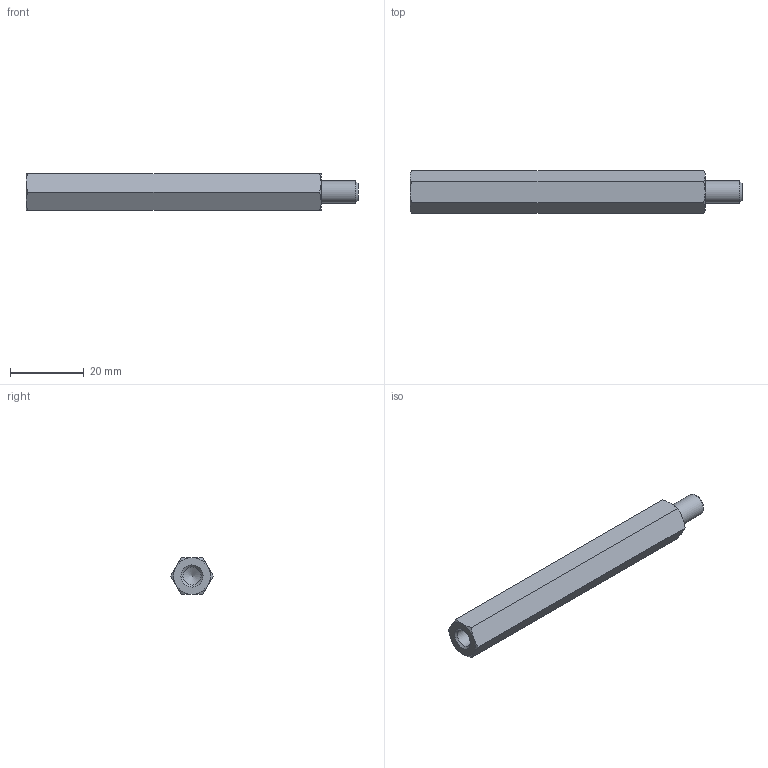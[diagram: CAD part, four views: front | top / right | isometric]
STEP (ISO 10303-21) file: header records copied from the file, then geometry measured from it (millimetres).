
FILE_DESCRIPTION( ( 'STEP AP203' ), '1' );
FILE_NAME( 'C:/Temp/Ganter_Step_05_03_2020/data/3_2/gn6220/gn6220_st/Spacer GN 6220-ST-M6-80-B.stp', '2020-03-13T05:42:49', ( 'License CC BY-ND 4.0' ), ( 'CADENAS' ), ' ', 'PARTsolutions', ' ' );
FILE_SCHEMA( ( 'CONFIG_CONTROL_DESIGN' ) );
Length unit declared in the file: millimetre
Products named in the file (1): _Spacer GN 6220-ST-M6-80-B
Bounding box: 90 x 11.55 x 10 mm (x, y, z)
Volume: 6869.1 mm3; surface area: 3380.4 mm2
Topology: 1 solids, 1 shells, 26 faces, 55 edges, 32 vertices
Faces by surface type: cone 15, plane 9, cylinder 2
Full cylindrical faces by diameter (mm): 4.917 x1, 6 x1
Entity records: 762 total; most frequent: CARTESIAN_POINT 226, DIRECTION 96, ORIENTED_EDGE 96, EDGE_CURVE 48, AXIS2_PLACEMENT_3D 45, EDGE_LOOP 32, VERTEX_POINT 31, FACE_OUTER_BOUND 28
